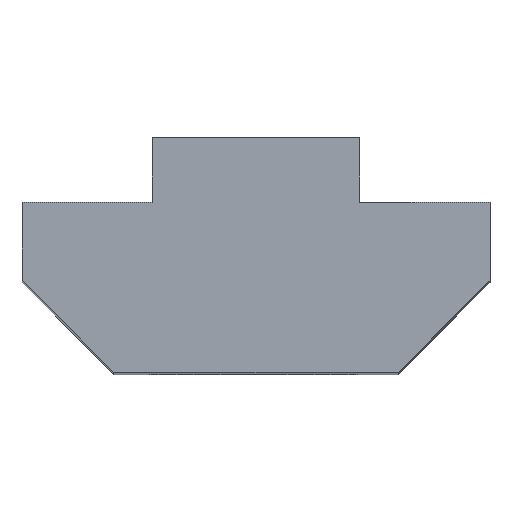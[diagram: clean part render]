
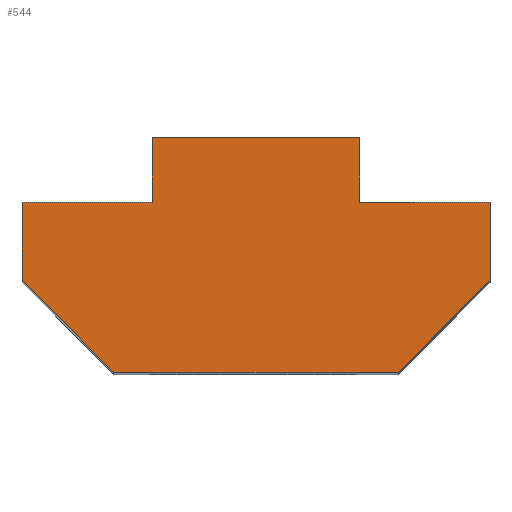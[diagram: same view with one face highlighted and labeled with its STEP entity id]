
A CAD part, top view. The second image highlights one B-rep face of the part: STEP entity #544.
In plain terms, the highlighted planar face has unit normal (0, 0, 1).
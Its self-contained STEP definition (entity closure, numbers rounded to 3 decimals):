
#9 = DIRECTION ( 'NONE',  ( -1., 0., 0. ) ) ;
#13 = VECTOR ( 'NONE', #159, 1000. ) ;
#24 = VERTEX_POINT ( 'NONE', #446 ) ;
#30 = VERTEX_POINT ( 'NONE', #217 ) ;
#43 = ORIENTED_EDGE ( 'NONE', *, *, #458, .T. ) ;
#62 = VERTEX_POINT ( 'NONE', #570 ) ;
#66 = CARTESIAN_POINT ( 'NONE',  ( -24.723, 0., 50. ) ) ;
#73 = LINE ( 'NONE', #512, #621 ) ;
#80 = VERTEX_POINT ( 'NONE', #248 ) ;
#81 = LINE ( 'NONE', #297, #495 ) ;
#97 = ORIENTED_EDGE ( 'NONE', *, *, #193, .T. ) ;
#118 = CARTESIAN_POINT ( 'NONE',  ( -24.723, 0., 50. ) ) ;
#136 = VECTOR ( 'NONE', #273, 1000. ) ;
#144 = DIRECTION ( 'NONE',  ( 0.707, -0.707, 0. ) ) ;
#149 = EDGE_CURVE ( 'NONE', #62, #80, #340, .T. ) ;
#151 = VERTEX_POINT ( 'NONE', #507 ) ;
#153 = LINE ( 'NONE', #418, #13 ) ;
#159 = DIRECTION ( 'NONE',  ( 1., 0., 0. ) ) ;
#161 = ORIENTED_EDGE ( 'NONE', *, *, #372, .T. ) ;
#162 = EDGE_CURVE ( 'NONE', #24, #395, #362, .T. ) ;
#166 = CARTESIAN_POINT ( 'NONE',  ( -16.723, 2.5, 50. ) ) ;
#182 = DIRECTION ( 'NONE',  ( -1., 0., 0. ) ) ;
#188 = VECTOR ( 'NONE', #350, 1000. ) ;
#193 = EDGE_CURVE ( 'NONE', #348, #30, #81, .T. ) ;
#197 = EDGE_CURVE ( 'NONE', #395, #226, #73, .T. ) ;
#199 = VECTOR ( 'NONE', #616, 1000. ) ;
#204 = VERTEX_POINT ( 'NONE', #301 ) ;
#206 = ORIENTED_EDGE ( 'NONE', *, *, #149, .T. ) ;
#212 = EDGE_CURVE ( 'NONE', #151, #348, #333, .T. ) ;
#217 = CARTESIAN_POINT ( 'NONE',  ( -26.187, -6.536, 50. ) ) ;
#223 = CARTESIAN_POINT ( 'NONE',  ( -29.723, 0., 50. ) ) ;
#225 = DIRECTION ( 'NONE',  ( 0., 0., -1. ) ) ;
#226 = VERTEX_POINT ( 'NONE', #631 ) ;
#230 = VECTOR ( 'NONE', #564, 1000. ) ;
#244 = CARTESIAN_POINT ( 'NONE',  ( -11.723, 0., 50. ) ) ;
#247 = DIRECTION ( 'NONE',  ( -1., 0., 0. ) ) ;
#248 = CARTESIAN_POINT ( 'NONE',  ( -24.723, 2.5, 50. ) ) ;
#271 = PLANE ( 'NONE',  #344 ) ;
#273 = DIRECTION ( 'NONE',  ( 0., 1., 0. ) ) ;
#279 = VECTOR ( 'NONE', #9, 1000. ) ;
#292 = ORIENTED_EDGE ( 'NONE', *, *, #212, .T. ) ;
#297 = CARTESIAN_POINT ( 'NONE',  ( -29.723, -3., 50. ) ) ;
#301 = CARTESIAN_POINT ( 'NONE',  ( -15.258, -6.536, 50. ) ) ;
#308 = LINE ( 'NONE', #667, #188 ) ;
#333 = LINE ( 'NONE', #569, #199 ) ;
#340 = LINE ( 'NONE', #498, #380 ) ;
#344 = AXIS2_PLACEMENT_3D ( 'NONE', #539, #225, #596 ) ;
#348 = VERTEX_POINT ( 'NONE', #662 ) ;
#350 = DIRECTION ( 'NONE',  ( 0.707, 0.707, 0. ) ) ;
#356 = VECTOR ( 'NONE', #441, 1000. ) ;
#362 = LINE ( 'NONE', #244, #230 ) ;
#372 = EDGE_CURVE ( 'NONE', #204, #24, #308, .T. ) ;
#380 = VECTOR ( 'NONE', #182, 1000. ) ;
#390 = ORIENTED_EDGE ( 'NONE', *, *, #162, .T. ) ;
#395 = VERTEX_POINT ( 'NONE', #461 ) ;
#405 = EDGE_CURVE ( 'NONE', #30, #204, #153, .T. ) ;
#415 = LINE ( 'NONE', #223, #279 ) ;
#418 = CARTESIAN_POINT ( 'NONE',  ( -26.187, -6.536, 50. ) ) ;
#420 = EDGE_LOOP ( 'NONE', ( #489, #43, #292, #97, #540, #161, #390, #638, #659, #206 ) ) ;
#441 = DIRECTION ( 'NONE',  ( 0., -1., 0. ) ) ;
#446 = CARTESIAN_POINT ( 'NONE',  ( -11.723, -3., 50. ) ) ;
#449 = EDGE_CURVE ( 'NONE', #226, #62, #454, .T. ) ;
#454 = LINE ( 'NONE', #166, #136 ) ;
#455 = FACE_OUTER_BOUND ( 'NONE', #420, .T. ) ;
#458 = EDGE_CURVE ( 'NONE', #561, #151, #415, .T. ) ;
#461 = CARTESIAN_POINT ( 'NONE',  ( -11.723, 0., 50. ) ) ;
#489 = ORIENTED_EDGE ( 'NONE', *, *, #666, .T. ) ;
#495 = VECTOR ( 'NONE', #144, 1000. ) ;
#498 = CARTESIAN_POINT ( 'NONE',  ( -24.723, 2.5, 50. ) ) ;
#501 = LINE ( 'NONE', #118, #356 ) ;
#507 = CARTESIAN_POINT ( 'NONE',  ( -29.723, 0., 50. ) ) ;
#512 = CARTESIAN_POINT ( 'NONE',  ( -16.723, 0., 50. ) ) ;
#539 = CARTESIAN_POINT ( 'NONE',  ( 0., 0., 50. ) ) ;
#540 = ORIENTED_EDGE ( 'NONE', *, *, #405, .T. ) ;
#544 = ADVANCED_FACE ( 'NONE', ( #455 ), #271, .F. ) ;
#561 = VERTEX_POINT ( 'NONE', #66 ) ;
#564 = DIRECTION ( 'NONE',  ( 0., 1., 0. ) ) ;
#569 = CARTESIAN_POINT ( 'NONE',  ( -29.723, 0., 50. ) ) ;
#570 = CARTESIAN_POINT ( 'NONE',  ( -16.723, 2.5, 50. ) ) ;
#596 = DIRECTION ( 'NONE',  ( -1., 0., 0. ) ) ;
#616 = DIRECTION ( 'NONE',  ( 0., -1., 0. ) ) ;
#621 = VECTOR ( 'NONE', #247, 1000. ) ;
#631 = CARTESIAN_POINT ( 'NONE',  ( -16.723, 0., 50. ) ) ;
#638 = ORIENTED_EDGE ( 'NONE', *, *, #197, .T. ) ;
#659 = ORIENTED_EDGE ( 'NONE', *, *, #449, .T. ) ;
#662 = CARTESIAN_POINT ( 'NONE',  ( -29.723, -3., 50. ) ) ;
#666 = EDGE_CURVE ( 'NONE', #80, #561, #501, .T. ) ;
#667 = CARTESIAN_POINT ( 'NONE',  ( -11.723, -3., 50. ) ) ;
